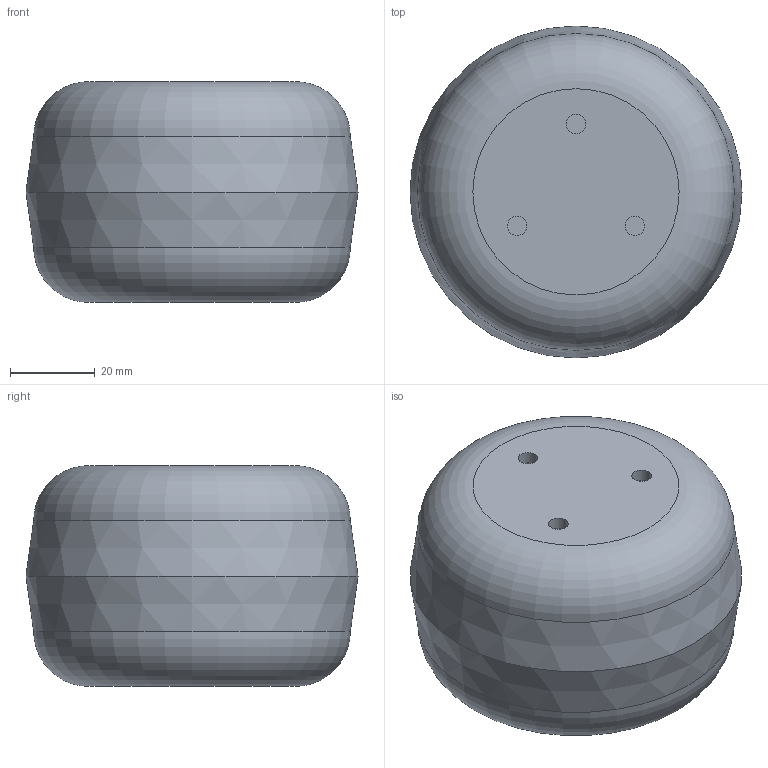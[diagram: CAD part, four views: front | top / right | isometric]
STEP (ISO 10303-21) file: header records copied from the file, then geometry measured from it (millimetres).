
FILE_DESCRIPTION(/* description */ ('STEP AP242 Edition 2','CAx-IF Rec.Pracs.---Representation and Presentation of Product Manufacturing Information (PMI)---4.0---2014-10-13','CAx-IF Rec.Pracs.---3D Tessellated Geometry---0.4---2014-09-14','2;1','CAx-IF Rec.Pracs.---User Defined Attributes---1.5---2016-08-15'),/* implementation_level */ '2;1');
FILE_NAME(/* name */ '5d105135-fca5-4249-beb0-2a4dad0b8575',/* time_stamp */ '2026-09-25T11:34:30Z',/* author */ (''),/* organization */ (''),/* preprocessor_version */ 'ST-DEVELOPER v20',/* originating_system */ 'ONSHAPE BY PTC INC, 1.221',/* authorisation */ ' ');
FILE_SCHEMA (('AP242_MANAGED_MODEL_BASED_3D_ENGINEERING_MIM_LF { 1 0 10303 442 3 1 4 }'));
Length unit declared in the file: metre
Products named in the file (1): Part 1
Bounding box: 78.21 x 78.21 x 52 mm (x, y, z)
Volume: 50846.6 mm3; surface area: 33956.3 mm2
Topology: 1 solids, 1 shells, 17 faces, 31 edges, 19 vertices
Faces by surface type: plane 5, cylinder 4, torus 4, cone 4
Full cylindrical faces by diameter (mm): 4.6 x3, 20 x1
Entity records: 384 total; most frequent: DIRECTION 72, CARTESIAN_POINT 54, ORIENTED_EDGE 36, EDGE_LOOP 36, FACE_BOUND 36, AXIS2_PLACEMENT_3D 36, EDGE_CURVE 18, VERTEX_POINT 18
